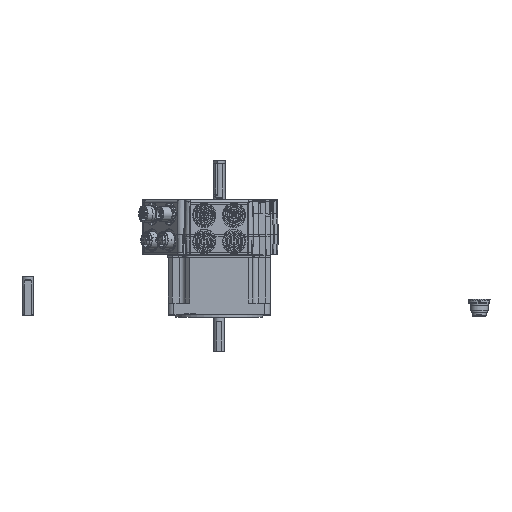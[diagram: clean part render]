
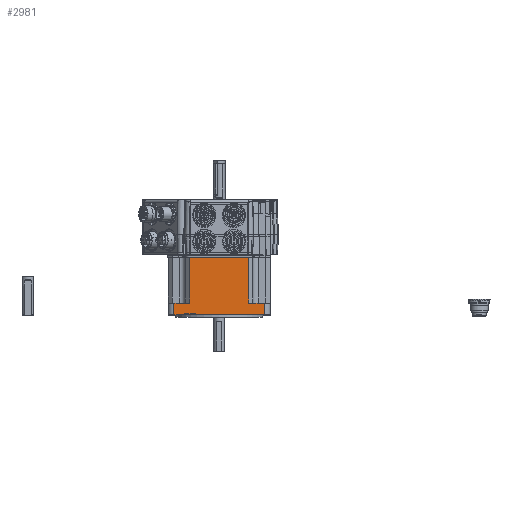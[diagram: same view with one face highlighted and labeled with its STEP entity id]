
A CAD part, top view. The second image highlights one B-rep face of the part: STEP entity #2981.
In plain terms, the highlighted planar face has unit normal (0, 0, 1).
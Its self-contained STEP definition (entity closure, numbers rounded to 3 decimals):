
#2981 = ADVANCED_FACE( '', ( #6182 ), #6183, .F. );
#6182 = FACE_OUTER_BOUND( '', #10006, .T. );
#6183 = PLANE( '', #10007 );
#10006 = EDGE_LOOP( '', ( #18298, #18299, #18300, #18301, #18302, #18303, #18304, #18305, #18306, #18307, #18308, #18309 ) );
#10007 = AXIS2_PLACEMENT_3D( '', #18310, #18311, #18312 );
#18298 = ORIENTED_EDGE( '', *, *, #20017, .T. );
#18299 = ORIENTED_EDGE( '', *, *, #20658, .F. );
#18300 = ORIENTED_EDGE( '', *, *, #20248, .F. );
#18301 = ORIENTED_EDGE( '', *, *, #19419, .T. );
#18302 = ORIENTED_EDGE( '', *, *, #20173, .T. );
#18303 = ORIENTED_EDGE( '', *, *, #21163, .T. );
#18304 = ORIENTED_EDGE( '', *, *, #19489, .F. );
#18305 = ORIENTED_EDGE( '', *, *, #21250, .T. );
#18306 = ORIENTED_EDGE( '', *, *, #20169, .T. );
#18307 = ORIENTED_EDGE( '', *, *, #21824, .F. );
#18308 = ORIENTED_EDGE( '', *, *, #19364, .F. );
#18309 = ORIENTED_EDGE( '', *, *, #19751, .T. );
#18310 = CARTESIAN_POINT( '', ( 46.966, 176.743, 106.964 ) );
#18311 = DIRECTION( '', ( 0., 0., -1. ) );
#18312 = DIRECTION( '', ( -1., 0., 0. ) );
#19364 = EDGE_CURVE( '', #22970, #22972, #22973, .T. );
#19419 = EDGE_CURVE( '', #23066, #23064, #23067, .T. );
#19489 = EDGE_CURVE( '', #23184, #23187, #23188, .T. );
#19751 = EDGE_CURVE( '', #22970, #23638, #23640, .T. );
#20017 = EDGE_CURVE( '', #23638, #24077, #24079, .T. );
#20169 = EDGE_CURVE( '', #24321, #24319, #24322, .T. );
#20173 = EDGE_CURVE( '', #23064, #24327, #24329, .T. );
#20248 = EDGE_CURVE( '', #23066, #24449, #24450, .T. );
#20658 = EDGE_CURVE( '', #24449, #24077, #25075, .T. );
#21163 = EDGE_CURVE( '', #24327, #23187, #25794, .T. );
#21250 = EDGE_CURVE( '', #23184, #24321, #25912, .T. );
#21824 = EDGE_CURVE( '', #22972, #24319, #26639, .T. );
#22970 = VERTEX_POINT( '', #28262 );
#22972 = VERTEX_POINT( '', #28265 );
#22973 = LINE( '', #28266, #28267 );
#23064 = VERTEX_POINT( '', #28412 );
#23066 = VERTEX_POINT( '', #28414 );
#23067 = LINE( '', #28415, #28416 );
#23184 = VERTEX_POINT( '', #28560 );
#23187 = VERTEX_POINT( '', #28564 );
#23188 = LINE( '', #28565, #28566 );
#23638 = VERTEX_POINT( '', #29161 );
#23640 = LINE( '', #29164, #29165 );
#24077 = VERTEX_POINT( '', #29726 );
#24079 = LINE( '', #29729, #29730 );
#24319 = VERTEX_POINT( '', #30054 );
#24321 = VERTEX_POINT( '', #30056 );
#24322 = LINE( '', #30057, #30058 );
#24327 = VERTEX_POINT( '', #30064 );
#24329 = LINE( '', #30067, #30068 );
#24449 = VERTEX_POINT( '', #30217 );
#24450 = LINE( '', #30218, #30219 );
#25075 = LINE( '', #31142, #31143 );
#25794 = LINE( '', #32192, #32193 );
#25912 = LINE( '', #32363, #32364 );
#26639 = LINE( '', #33374, #33375 );
#28262 = CARTESIAN_POINT( '', ( 71.666, 9.91, 106.964 ) );
#28265 = CARTESIAN_POINT( '', ( 84.966, 9.91, 106.964 ) );
#28266 = CARTESIAN_POINT( '', ( 71.466, 9.91, 106.964 ) );
#28267 = VECTOR( '', #34650, 1000. );
#28412 = CARTESIAN_POINT( '', ( 8.966, 0., 106.964 ) );
#28414 = CARTESIAN_POINT( '', ( 8.966, 9.9, 106.964 ) );
#28415 = CARTESIAN_POINT( '', ( 8.966, 176.743, 106.964 ) );
#28416 = VECTOR( '', #34739, 1000. );
#28560 = CARTESIAN_POINT( '', ( 26.966, 1., 106.964 ) );
#28564 = CARTESIAN_POINT( '', ( 17.966, 1., 106.964 ) );
#28565 = CARTESIAN_POINT( '', ( 22.466, 1., 106.964 ) );
#28566 = VECTOR( '', #34843, 1000. );
#29161 = CARTESIAN_POINT( '', ( 71.666, 48.5, 106.964 ) );
#29164 = CARTESIAN_POINT( '', ( 71.666, -127.06, 106.964 ) );
#29165 = VECTOR( '', #35206, 1000. );
#29726 = CARTESIAN_POINT( '', ( 22.266, 48.5, 106.964 ) );
#29729 = CARTESIAN_POINT( '', ( 71.666, 48.5, 106.964 ) );
#29730 = VECTOR( '', #35600, 1000. );
#30054 = CARTESIAN_POINT( '', ( 84.966, 0., 106.964 ) );
#30056 = CARTESIAN_POINT( '', ( 26.966, 0., 106.964 ) );
#30057 = CARTESIAN_POINT( '', ( 46.966, 0., 106.964 ) );
#30058 = VECTOR( '', #35802, 1000. );
#30064 = CARTESIAN_POINT( '', ( 17.966, 0., 106.964 ) );
#30067 = CARTESIAN_POINT( '', ( 46.966, 0., 106.964 ) );
#30068 = VECTOR( '', #35808, 1000. );
#30217 = CARTESIAN_POINT( '', ( 22.266, 9.9, 106.964 ) );
#30218 = CARTESIAN_POINT( '', ( 8.966, 9.9, 106.964 ) );
#30219 = VECTOR( '', #35922, 1000. );
#31142 = CARTESIAN_POINT( '', ( 22.266, -127.06, 106.964 ) );
#31143 = VECTOR( '', #36427, 1000. );
#32192 = CARTESIAN_POINT( '', ( 17.966, 4., 106.964 ) );
#32193 = VECTOR( '', #37078, 1000. );
#32363 = CARTESIAN_POINT( '', ( 26.966, 4., 106.964 ) );
#32364 = VECTOR( '', #37190, 1000. );
#33374 = CARTESIAN_POINT( '', ( 84.966, 176.743, 106.964 ) );
#33375 = VECTOR( '', #37899, 1000. );
#34650 = DIRECTION( '', ( 1., 0., 0. ) );
#34739 = DIRECTION( '', ( 0., -1., 0. ) );
#34843 = DIRECTION( '', ( -1., 0., 0. ) );
#35206 = DIRECTION( '', ( 0., 1., 0. ) );
#35600 = DIRECTION( '', ( -1., 0., 0. ) );
#35802 = DIRECTION( '', ( 1., 0., 0. ) );
#35808 = DIRECTION( '', ( 1., 0., 0. ) );
#35922 = DIRECTION( '', ( 1., 0., 0. ) );
#36427 = DIRECTION( '', ( 0., 1., 0. ) );
#37078 = DIRECTION( '', ( 0., 1., 0. ) );
#37190 = DIRECTION( '', ( 0., -1., 0. ) );
#37899 = DIRECTION( '', ( 0., -1., 0. ) );
